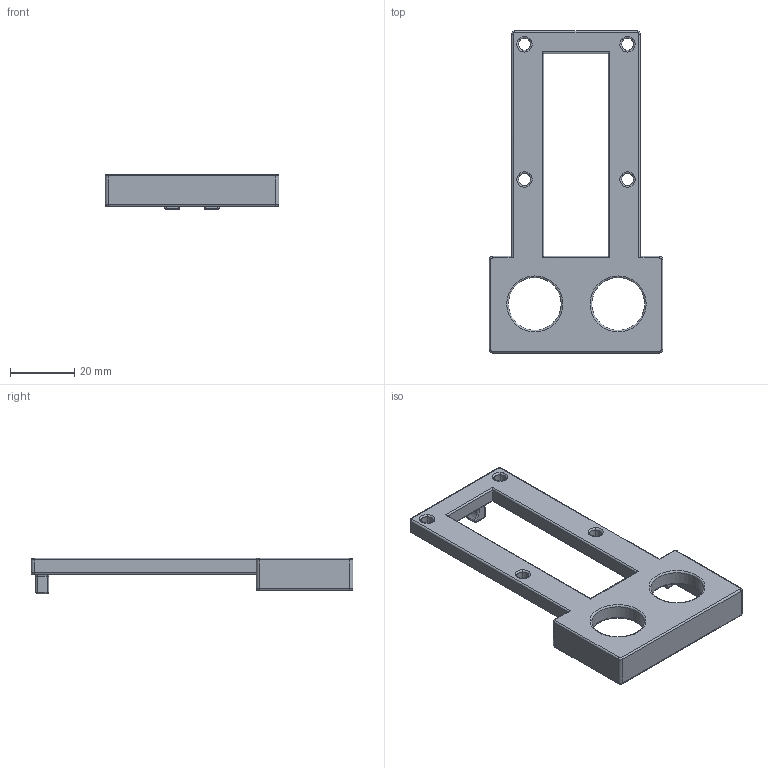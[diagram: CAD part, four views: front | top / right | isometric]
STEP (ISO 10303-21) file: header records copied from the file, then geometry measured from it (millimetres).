
FILE_DESCRIPTION(/* description */ (''),/* implementation_level */ '2;1');
FILE_NAME(/* name */ 'C:/Users/Stefano/Desktop/Thinkerlab/Progetti/Volume detector/Sensor suppport.step',/* time_stamp */ '2022-09-12T15:01:11+02:00',/* author */ (''),/* organization */ (''),/* preprocessor_version */ 'ST-DEVELOPER v19',/* originating_system */ 'Autodesk Translation Framework v11.7.0.108',/* authorisation */ '');
FILE_SCHEMA (('AUTOMOTIVE_DESIGN { 1 0 10303 214 3 1 1 }'));
Length unit declared in the file: millimetre
Products named in the file (1): Sensor suppport
Bounding box: 54 x 100 x 11 mm (x, y, z)
Volume: 15644.8 mm3; surface area: 9630.1 mm2
Topology: 1 solids, 1 shells, 194 faces, 444 edges, 254 vertices
Faces by surface type: cylinder 80, bspline 42, plane 34, torus 30, sphere 8
Full cylindrical faces by diameter (mm): 16.4 x2
Entity records: 7657 total; most frequent: CARTESIAN_POINT 3436, ORIENTED_EDGE 888, DIRECTION 848, EDGE_CURVE 444, AXIS2_PLACEMENT_3D 345, VERTEX_POINT 254, EDGE_LOOP 210, FACE_OUTER_BOUND 194
